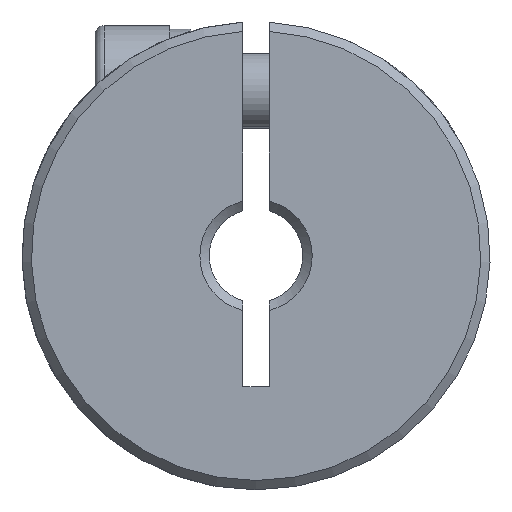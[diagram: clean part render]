
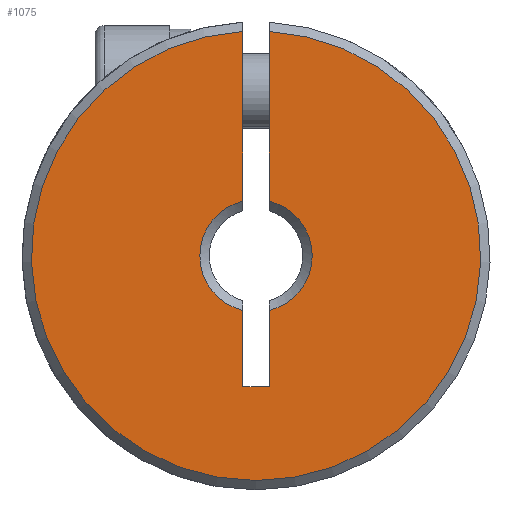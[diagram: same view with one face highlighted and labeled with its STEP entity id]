
A CAD part, front view. The second image highlights one B-rep face of the part: STEP entity #1075.
In plain terms, the highlighted planar face has unit normal (0, -1, 0).
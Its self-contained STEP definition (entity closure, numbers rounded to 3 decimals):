
#116 = AXIS2_PLACEMENT_3D ( 'NONE', #2888, #1437, #571 ) ;
#156 = CARTESIAN_POINT ( 'NONE',  ( 0.7, 0.25, -7. ) ) ;
#160 = EDGE_CURVE ( 'NONE', #1677, #880, #1600, .T. ) ;
#220 = CIRCLE ( 'NONE', #574, 3. ) ;
#224 = ORIENTED_EDGE ( 'NONE', *, *, #160, .F. ) ;
#314 = VECTOR ( 'NONE', #1732, 1000. ) ;
#385 = ORIENTED_EDGE ( 'NONE', *, *, #1861, .T. ) ;
#395 = CARTESIAN_POINT ( 'NONE',  ( -0.7, 0.25, 2.917 ) ) ;
#442 = DIRECTION ( 'NONE',  ( 0., 1., 0. ) ) ;
#481 = CARTESIAN_POINT ( 'NONE',  ( 0.7, 0.25, -7. ) ) ;
#571 = DIRECTION ( 'NONE',  ( 0., 0., 1. ) ) ;
#574 = AXIS2_PLACEMENT_3D ( 'NONE', #1197, #442, #1451 ) ;
#584 = CARTESIAN_POINT ( 'NONE',  ( 0.7, 0.25, -7. ) ) ;
#633 = LINE ( 'NONE', #2212, #1435 ) ;
#654 = CARTESIAN_POINT ( 'NONE',  ( 0.7, 0.25, -2.917 ) ) ;
#715 = AXIS2_PLACEMENT_3D ( 'NONE', #1530, #2337, #3072 ) ;
#745 = ORIENTED_EDGE ( 'NONE', *, *, #2025, .F. ) ;
#780 = EDGE_CURVE ( 'NONE', #827, #1226, #1686, .T. ) ;
#827 = VERTEX_POINT ( 'NONE', #2968 ) ;
#829 = VERTEX_POINT ( 'NONE', #395 ) ;
#851 = EDGE_CURVE ( 'NONE', #2709, #1226, #3291, .T. ) ;
#874 = ORIENTED_EDGE ( 'NONE', *, *, #780, .T. ) ;
#880 = VERTEX_POINT ( 'NONE', #942 ) ;
#942 = CARTESIAN_POINT ( 'NONE',  ( -0.7, 0.25, -7. ) ) ;
#951 = FACE_OUTER_BOUND ( 'NONE', #3317, .T. ) ;
#1075 = ADVANCED_FACE ( 'NONE', ( #951 ), #1336, .F. ) ;
#1187 = CIRCLE ( 'NONE', #715, 3. ) ;
#1193 = LINE ( 'NONE', #481, #1361 ) ;
#1197 = CARTESIAN_POINT ( 'NONE',  ( 0., 0.25, 0. ) ) ;
#1226 = VERTEX_POINT ( 'NONE', #2247 ) ;
#1270 = DIRECTION ( 'NONE',  ( 0., 0., -1. ) ) ;
#1336 = PLANE ( 'NONE',  #2102 ) ;
#1361 = VECTOR ( 'NONE', #2816, 1000. ) ;
#1430 = EDGE_CURVE ( 'NONE', #827, #829, #2076, .T. ) ;
#1435 = VECTOR ( 'NONE', #2238, 1000. ) ;
#1436 = ORIENTED_EDGE ( 'NONE', *, *, #851, .F. ) ;
#1437 = DIRECTION ( 'NONE',  ( 0., -1., 0. ) ) ;
#1451 = DIRECTION ( 'NONE',  ( 0., 0., 1. ) ) ;
#1530 = CARTESIAN_POINT ( 'NONE',  ( 0., 0.25, 0. ) ) ;
#1600 = LINE ( 'NONE', #2058, #3238 ) ;
#1610 = DIRECTION ( 'NONE',  ( 0., 1., 0. ) ) ;
#1677 = VERTEX_POINT ( 'NONE', #2981 ) ;
#1686 = CIRCLE ( 'NONE', #116, 12. ) ;
#1691 = EDGE_CURVE ( 'NONE', #2188, #3011, #633, .T. ) ;
#1732 = DIRECTION ( 'NONE',  ( 0., 0., 1. ) ) ;
#1851 = DIRECTION ( 'NONE',  ( 0., 0., 1. ) ) ;
#1861 = EDGE_CURVE ( 'NONE', #1677, #829, #220, .T. ) ;
#1885 = ORIENTED_EDGE ( 'NONE', *, *, #2780, .T. ) ;
#2025 = EDGE_CURVE ( 'NONE', #880, #2188, #1193, .T. ) ;
#2058 = CARTESIAN_POINT ( 'NONE',  ( -0.7, 0.25, -7. ) ) ;
#2076 = LINE ( 'NONE', #2378, #3246 ) ;
#2102 = AXIS2_PLACEMENT_3D ( 'NONE', #3140, #1610, #1851 ) ;
#2188 = VERTEX_POINT ( 'NONE', #584 ) ;
#2212 = CARTESIAN_POINT ( 'NONE',  ( 0.7, 0.25, -7. ) ) ;
#2238 = DIRECTION ( 'NONE',  ( 0., 0., 1. ) ) ;
#2247 = CARTESIAN_POINT ( 'NONE',  ( 0.7, 0.25, 11.98 ) ) ;
#2337 = DIRECTION ( 'NONE',  ( 0., 1., 0. ) ) ;
#2378 = CARTESIAN_POINT ( 'NONE',  ( -0.7, 0.25, -7. ) ) ;
#2528 = CARTESIAN_POINT ( 'NONE',  ( 0.7, 0.25, 2.917 ) ) ;
#2709 = VERTEX_POINT ( 'NONE', #2528 ) ;
#2742 = ORIENTED_EDGE ( 'NONE', *, *, #1691, .F. ) ;
#2780 = EDGE_CURVE ( 'NONE', #2709, #3011, #1187, .T. ) ;
#2816 = DIRECTION ( 'NONE',  ( 1., 0., 0. ) ) ;
#2888 = CARTESIAN_POINT ( 'NONE',  ( 0., 0.25, 0. ) ) ;
#2968 = CARTESIAN_POINT ( 'NONE',  ( -0.7, 0.25, 11.98 ) ) ;
#2981 = CARTESIAN_POINT ( 'NONE',  ( -0.7, 0.25, -2.917 ) ) ;
#3011 = VERTEX_POINT ( 'NONE', #654 ) ;
#3072 = DIRECTION ( 'NONE',  ( 0., 0., 1. ) ) ;
#3096 = ORIENTED_EDGE ( 'NONE', *, *, #1430, .F. ) ;
#3127 = DIRECTION ( 'NONE',  ( 0., 0., -1. ) ) ;
#3140 = CARTESIAN_POINT ( 'NONE',  ( 12.5, 0.25, -50. ) ) ;
#3238 = VECTOR ( 'NONE', #1270, 1000. ) ;
#3246 = VECTOR ( 'NONE', #3127, 1000. ) ;
#3291 = LINE ( 'NONE', #156, #314 ) ;
#3317 = EDGE_LOOP ( 'NONE', ( #1436, #1885, #2742, #745, #224, #385, #3096, #874 ) ) ;
